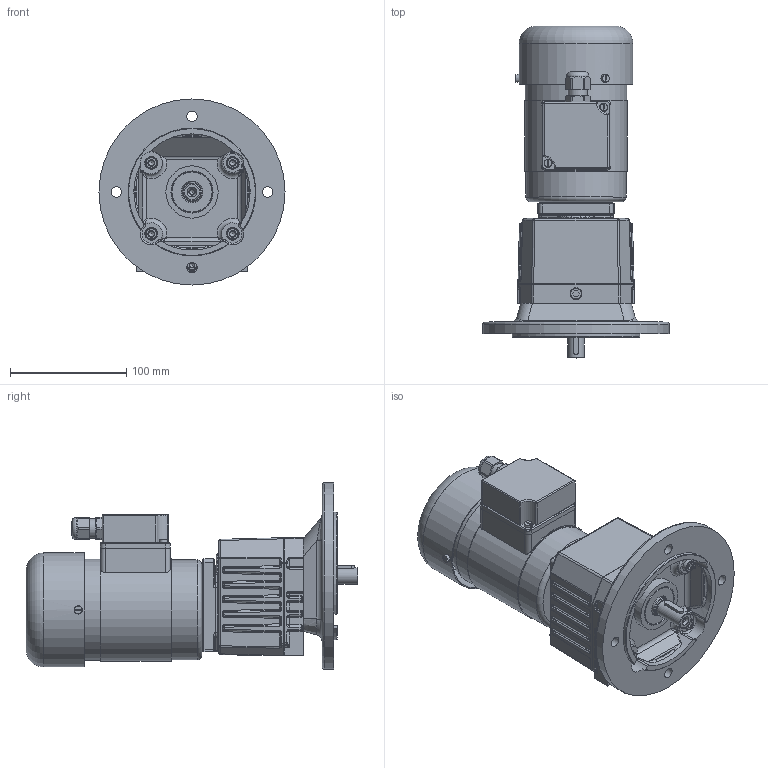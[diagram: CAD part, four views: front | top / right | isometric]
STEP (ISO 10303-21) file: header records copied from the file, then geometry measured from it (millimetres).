
FILE_DESCRIPTION(/* description */ (''),/* implementation_level */ '2;1');
FILE_NAME(/* name */ 'H:/CAD/CAD_Fusion360/Modelle_2D_3D/stp -Dateiformat/Reihe_G2/G239-G269/Motor 0,03 kW/G239_G269-03-4_B5_KK_C.step',/* time_stamp */ '2022-02-04T14:04:43+01:00',/* author */ (''),/* organization */ (''),/* preprocessor_version */ 'ST-DEVELOPER v18.1',/* originating_system */ 'Autodesk Translation Framework v10.13.0.1454',/* authorisation */ '');
FILE_SCHEMA (('AUTOMOTIVE_DESIGN { 1 0 10303 214 3 1 1 }'));
Products named in the file (45): G239_G269-03-4_B5_KK_C; BG_G239_G269_B14_Grundteile; 1200053010_09_Gehaeuse_B14_B5_239_269; 1210053120_00; 1931200005 OR6-1 Rundschnurring; 1200053300_00; 1932014504 M5x12 DIN965 Senkkopfschraube; 1200053280_02; 1932010012 M5x12 DIN912 Zylinderschraube; 1933210008 35x1,5 DIN472 Sicherungsring; 1210053030_00_Abtriebswelle_239_269; 1933200010 A17x1 DIN471 Sicherungsring; 1933200003 A10x1 DIN471 Sicherungsring; 1935400041 PS17x24x1 DIN988 Passscheibe; 1930040004 6003 2RS DIN625 Rillenkugellager; _HPC - S6003-2RS_PART1; _HPC - S6003-2RS_PART2; _HPC - S6003-2RS_PART3; _HPC - S6003-2RS_PART4; _HPC - S6003-2RS_PART5; 1930040002 6000 2RS DIN625 Rillenkugellager; _HPC - S6000-2RS_PART1; _HPC - S6000-2RS_PART2; _HPC - S6000-2RS_PART3; _HPC - S6000-2RS_PART4; _HPC - S6000-2RS_PART5; 1932500029 A5x5x22 DIN6885 Passfeder; 1931000033 RDR17x35x7 DIN3760 Radialdichtring; 1932010013 M5x16 DIN912 Zylinderschraube; 1933100006 A5,3 DIN6797 Zahnscheibe; 1932007003 M10x1 DIN906 Verschlussschraube; 1931200040 OR54-1,5 Rundschnurring; BG_G239_G269_B5_Baugruppe; 1932010031 M6x20 DIN912 Zylinderschraube; 1210053220_00_Flansch_B5_Abtrieb_G239_269; BG_1222011020_G2_Motoranbau_0,03kW Kopieren; 1220013130_02; 1931000017 RDR12x25x5 DIN3760 Radialdichtring; 1220013150_02_Kupplungshülse_G2_Motor; 1931300005 Al4x8 DIN7603 Dichtscheibe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
Assembly tree (87 placements, depth 4):
  G239_G269-03-4_B5_KK_C
    BG_G239_G269_B14_Grundteile
      1200053010_09_Gehaeuse_B14_B5_239_269
      1210053120_00  x2
      1931200005 OR6-1 Rundschnurring  x2
      1200053300_00
      1932014504 M5x12 DIN965 Senkkopfschraube
      1200053280_02
      1932010012 M5x12 DIN912 Zylinderschraube  x2
      1933210008 35x1,5 DIN472 Sicherungsring  x2
      1210053030_00_Abtriebswelle_239_269
      1933200010 A17x1 DIN471 Sicherungsring
      1933200003 A10x1 DIN471 Sicherungsring
      1935400041 PS17x24x1 DIN988 Passscheibe
      1930040004 6003 2RS DIN625 Rillenkugellager
        _HPC - S6003-2RS_PART1
        _HPC - S6003-2RS_PART2
        _HPC - S6003-2RS_PART3
        _HPC - S6003-2RS_PART4
        _HPC - S6003-2RS_PART5  x8
      1930040002 6000 2RS DIN625 Rillenkugellager
        _HPC - S6000-2RS_PART1
        _HPC - S6000-2RS_PART2
        _HPC - S6000-2RS_PART3
        _HPC - S6000-2RS_PART4
        _HPC - S6000-2RS_PART5  x8
      1932500029 A5x5x22 DIN6885 Passfeder
      1931000033 RDR17x35x7 DIN3760 Radialdichtring
      1932010013 M5x16 DIN912 Zylinderschraube  x7
      1933100006 A5,3 DIN6797 Zahnscheibe  x7
      1932007003 M10x1 DIN906 Verschlussschraube
      1931200040 OR54-1,5 Rundschnurring
    BG_G239_G269_B5_Baugruppe
      1932010031 M6x20 DIN912 Zylinderschraube  x4
      1210053220_00_Flansch_B5_Abtrieb_G239_269
    BG_1222011020_G2_Motoranbau_0,03kW Kopieren
      1220013130_02
      1931000017 RDR12x25x5 DIN3760 Radialdichtring
      1220013150_02_Kupplungshülse_G2_Motor
      1931300005 Al4x8 DIN7603 Dichtscheibe  x4
      1932010004 M4x16 DIN912 Zylinderschraube  x4
    BG_1222013060_G2_Motor_0,03kW_KK_C
      1220013060_G2_Motor_0,02_0,03kW_Dummy
        1932001015  x5
        Kabelverschraubung
Bounding box: 160 x 285.4 x 160 mm (x, y, z)
Volume: 1452201.7 mm3; surface area: 341930.6 mm2
Topology: 85 solids, 90 shells, 3077 faces, 7518 edges, 4596 vertices
Faces by surface type: plane 1155, cylinder 1093, bspline 259, torus 231, cone 222, sphere 117
Full cylindrical faces by diameter (mm): 0.314 x5, 1.25 x1, 1.5 x2, 1.7 x2, 2.5 x4, 3.332 x6, 3.5 x8, 3.571 x5, 3.961 x10, 4 x9, 4.17 x1, 4.2 x19, 4.234 x7, 4.5 x4, 5 x22, 5.035 x2, 5.3 x15, 5.5 x10, 6 x4, 6.5 x2, 6.6 x4, 7 x8, 7.9 x6, 8 x15, 8.5 x9, 9 x6, 9.5 x7, 9.6 x2, 10 x9, 10.9 x1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
Entity records: 102410 total; most frequent: CARTESIAN_POINT 46494, DIRECTION 11721, ORIENTED_EDGE 11020, EDGE_CURVE 5510, AXIS2_PLACEMENT_3D 4626, VERTEX_POINT 3403, EDGE_LOOP 2635, LINE 2469
